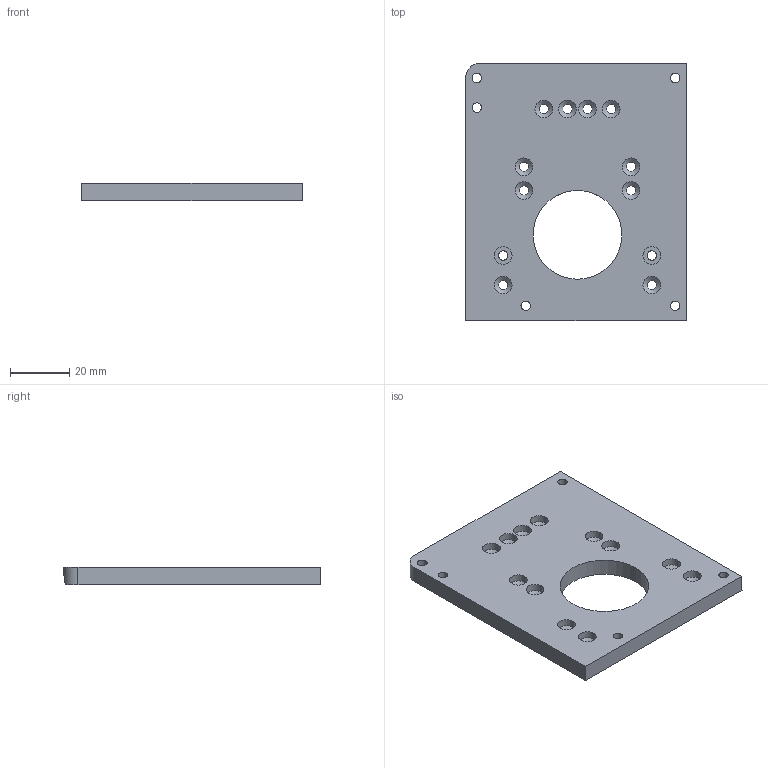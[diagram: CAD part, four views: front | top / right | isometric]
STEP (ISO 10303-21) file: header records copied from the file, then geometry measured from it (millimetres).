
FILE_DESCRIPTION(/* description */ (''),/* implementation_level */ '2;1');
FILE_NAME(/* name */ '3-02-1 Wheel mount plate left.step',/* time_stamp */ '2025-05-10T22:03:31+02:00',/* author */ (''),/* organization */ (''),/* preprocessor_version */ 'ST-DEVELOPER v20.1',/* originating_system */ 'Autodesk Translation Framework v14.4.0.0',/* authorisation */ '');
FILE_SCHEMA (('AUTOMOTIVE_DESIGN { 1 0 10303 214 3 1 1 }'));
Length unit declared in the file: millimetre
Products named in the file (1): 3-02-1 Wheel mount plate left
Bounding box: 74.6 x 86.95 x 5.8 mm (x, y, z)
Volume: 31555 mm3; surface area: 14959.3 mm2
Topology: 1 solids, 1 shells, 59 faces, 138 edges, 86 vertices
Faces by surface type: cylinder 37, cone 12, plane 10
Full cylindrical faces by diameter (mm): 3.2 x17, 6 x17, 30 x1
Entity records: 1820 total; most frequent: DIRECTION 336, CARTESIAN_POINT 287, ORIENTED_EDGE 276, AXIS2_PLACEMENT_3D 139, EDGE_CURVE 138, EDGE_LOOP 100, VERTEX_POINT 86, CIRCLE 79
